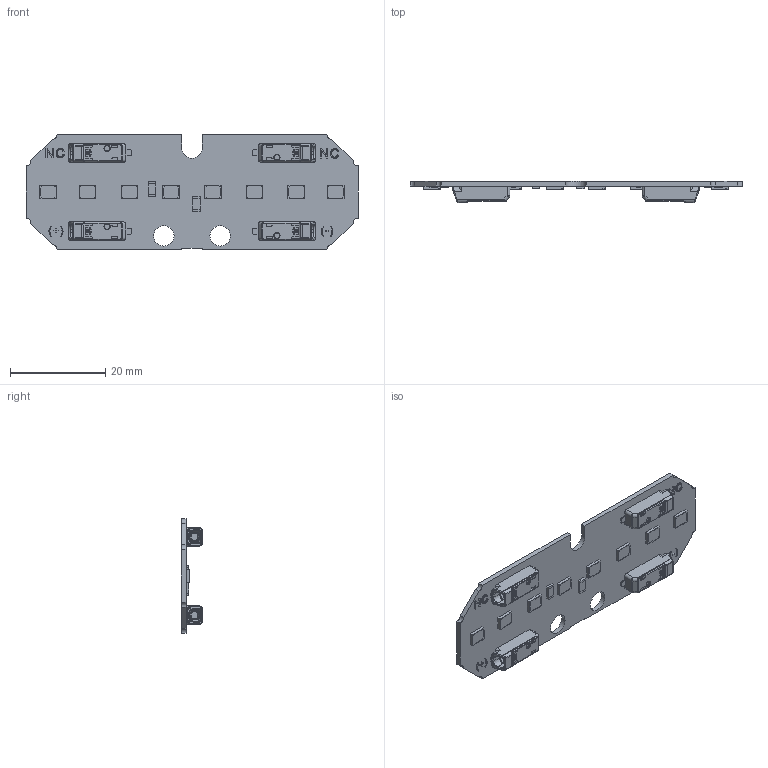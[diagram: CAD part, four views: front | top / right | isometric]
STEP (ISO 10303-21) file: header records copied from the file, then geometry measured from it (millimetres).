
FILE_DESCRIPTION(/* description */ ('Unknown'),/* implementation_level */ '2;1');
FILE_NAME(/* name */ ' LinLED 70x24mm 275lm 840 2C+R 3V Opt G1 sh-000 2024-01-11',/* time_stamp */ '2024-01-11T13:52:36+01:00',/* author */ ('Unknown'),/* organization */ ('Unknown'),/* preprocessor_version */ 'ST-DEVELOPER v18.102',/* originating_system */ 'Solid Edge',/* authorisation */ 'Unknown');
FILE_SCHEMA (('AUTOMOTIVE_DESIGN {1 0 10303 214 3 1 1}'));
Length unit declared in the file: millimetre
Products named in the file (1):  LinLED 70x24mm 275lm 840 2C+R 3V Opt G1 sh-000 2024-01-11
Bounding box: 69.6 x 4.45 x 24 mm (x, y, z)
Volume: 2073.4 mm3; surface area: 4182.4 mm2
Topology: 1 solids, 1 shells, 1192 faces, 3066 edges, 1904 vertices
Faces by surface type: plane 595, cylinder 281, torus 128, cone 100, bspline 56, sphere 32
Full cylindrical faces by diameter (mm): 4.3 x2
Entity records: 46379 total; most frequent: CARTESIAN_POINT 11081, ORIENTED_EDGE 6032, DIRECTION 4828, EDGE_CURVE 3016, VERTEX_POINT 1892, LINE 1638, VECTOR 1638, AXIS2_PLACEMENT_3D 1595
